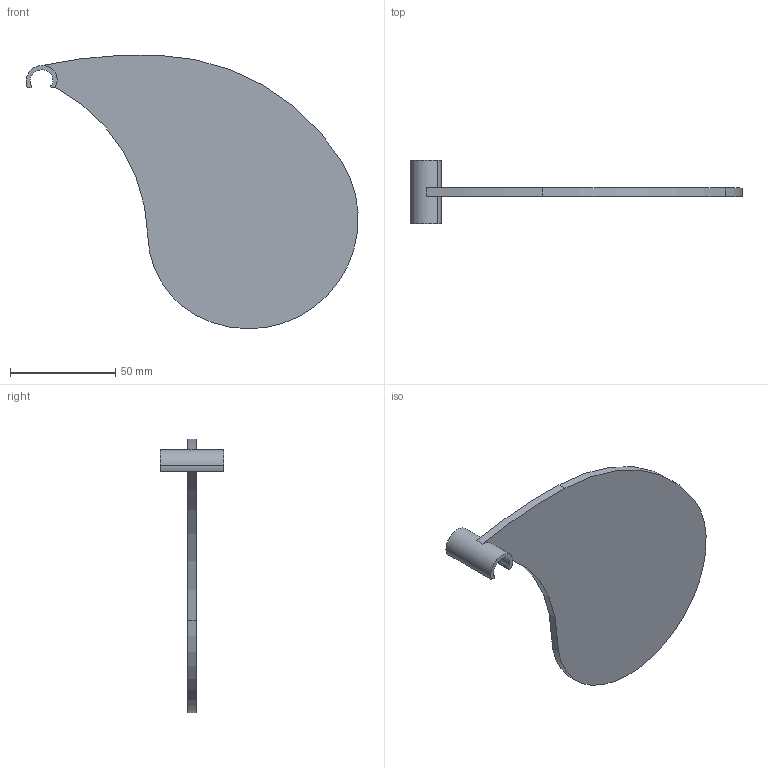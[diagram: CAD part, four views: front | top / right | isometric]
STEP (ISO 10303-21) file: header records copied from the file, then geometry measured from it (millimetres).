
FILE_DESCRIPTION (( 'STEP AP214' ), '1' );
FILE_NAME ('Relingdivider für Rundreling_KP60017500.STEP', '2010-10-06T11:50:28', ( 'grass' ), ( '' ), 'SwSTEP 2.0', 'SolidWorks 2010', '' );
FILE_SCHEMA (( 'AUTOMOTIVE_DESIGN' ));
Length unit declared in the file: millimetre
Products named in the file (1): Relingdivider f黵 Rundreling_KP60017500
Bounding box: 157.6 x 30 x 129.85 mm (x, y, z)
Volume: 48319.9 mm3; surface area: 26843.9 mm2
Topology: 1 solids, 1 shells, 26 faces, 70 edges, 46 vertices
Faces by surface type: cylinder 20, plane 6
Entity records: 874 total; most frequent: DIRECTION 166, CARTESIAN_POINT 143, ORIENTED_EDGE 140, EDGE_CURVE 70, AXIS2_PLACEMENT_3D 69, VERTEX_POINT 46, CIRCLE 42, LINE 28
